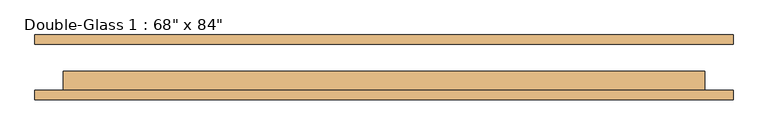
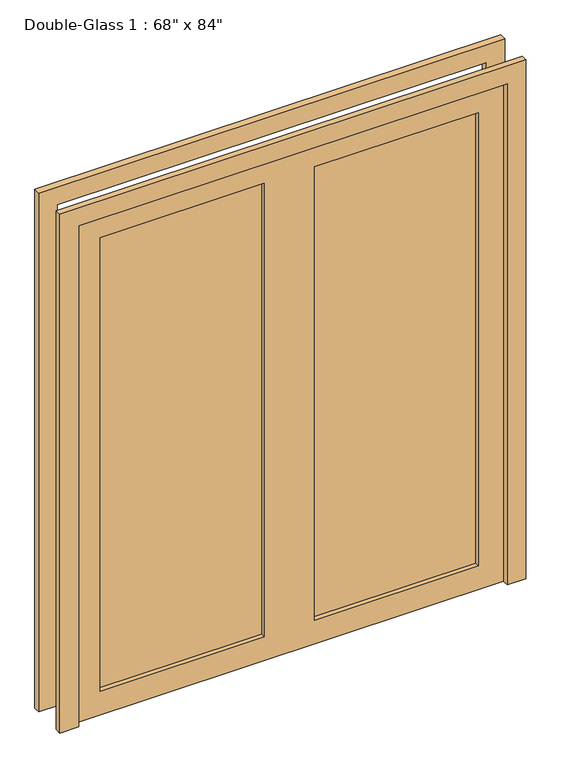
"""IFC4 building model written with IfcOpenShell, lengths in millimetres: door geometry."""

from ifc_helpers import new_model, si_unit, frame, origin, place, context, project, spatial, polyline, outline, extrude, source, transform, mapped, element, save


def door_8c1e798b(model_context):
    return source(origin(), model_context, "Body", "SweptSolid", [
        extrude(outline(polyline([(0.0, 939.8), (2209.8, 939.8), (2209.8, -939.8), (0.0, -939.8), (0.0, -863.6), (2133.6, -863.6), (2133.6, 863.6), (0.0, 863.6), (0.0, 939.8)])), frame((0.0, 59.53125, 0.0), z_axis=(0.0, 1.0, 0.0), x_axis=(0.0, 0.0, 1.0)), (0.0, 0.0, 1.0), 25.4),
        extrude(outline(polyline([(2133.6, 863.6), (0.0, 863.6), (0.0, 939.8), (2209.8, 939.8), (2209.8, -939.8), (0.0, -939.8), (0.0, -863.6), (2133.6, -863.6), (2133.6, 863.6)])), frame((0.0, -89.69375, 0.0), z_axis=(0.0, 1.0, 0.0), x_axis=(0.0, 0.0, 1.0)), (0.0, 0.0, 1.0), 25.4),
        extrude(outline(polyline([(762.0, -38.89375), (762.0, -46.0375), (101.6, -46.0375), (101.6, -38.89375), (762.0, -38.89375)])), frame((0.0, 0.0, 101.6), z_axis=(0.0, 0.0, 1.0), x_axis=(1.0, 0.0, 0.0)), (0.0, 0.0, 1.0), 1930.4),
        extrude(outline(polyline([(-101.6, -38.89375), (-101.6, -46.0375), (-762.0, -46.0375), (-762.0, -38.89375), (-101.6, -38.89375)])), frame((0.0, 0.0, 101.6), z_axis=(0.0, 0.0, 1.0), x_axis=(1.0, 0.0, 0.0)), (0.0, 0.0, 1.0), 1930.4),
        extrude(outline(polyline([(2133.6, 863.6), (2133.6, -863.6), (0.0, -863.6), (0.0, 863.6), (2133.6, 863.6)]), holes=[polyline([(2032.0, -101.6), (101.6, -101.6), (101.6, -762.0), (2032.0, -762.0), (2032.0, -101.6)]), polyline([(2032.0, 762.0), (101.6, 762.0), (101.6, 101.6), (2032.0, 101.6), (2032.0, 762.0)])]), frame((0.0, -64.29375, 0.0), z_axis=(0.0, 1.0, 0.0), x_axis=(0.0, 0.0, 1.0)), (0.0, 0.0, 1.0), 50.8),
    ])


if __name__ == "__main__":
    model = new_model("IFC4")
    model_context = context("Model", 3, world=origin())
    ifc_project = project(units=[si_unit("LENGTHUNIT", "METRE", prefix="MILLI")], contexts=[model_context])
    site = spatial("IfcSite", under=ifc_project)
    building = spatial("IfcBuilding", under=site)
    placement = place(None, origin())
    door_shape = door_8c1e798b(model_context)
    element("IfcDoor", 1, ObjectType="Double-Glass 1 : 68\" x 84\"", at=placement, inside=building, context=model_context, shape_type="MappedRepresentation", body=[
        mapped(door_shape, transform((0.0, 0.0, 0.0), x_axis=(1.0, 0.0, 0.0), y_axis=(0.0, 1.0, 0.0), z_axis=(0.0, 0.0, 1.0))),
    ])
    save(model, "model.ifc")
